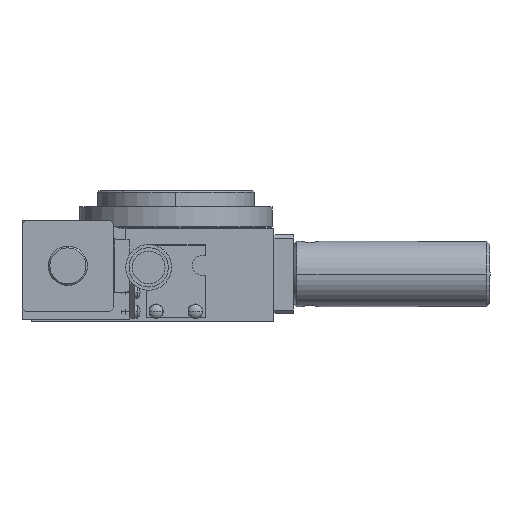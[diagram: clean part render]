
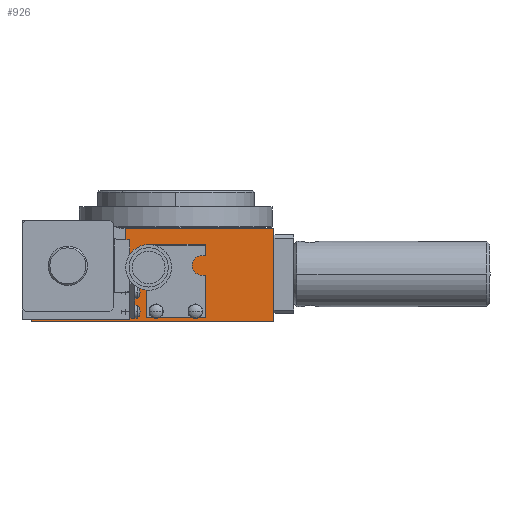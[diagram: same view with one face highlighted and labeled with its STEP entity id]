
A CAD part, left-side view. The second image highlights one B-rep face of the part: STEP entity #926.
In plain terms, the highlighted planar face has unit normal (-1, 0, 0).
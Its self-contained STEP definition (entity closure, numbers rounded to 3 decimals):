
#926=ADVANCED_FACE('',(#1739,#1740,#1741),#1742,.F.);
#1739=FACE_BOUND('',#2942,.T.);
#1740=FACE_OUTER_BOUND('',#2943,.T.);
#1741=FACE_BOUND('',#2944,.T.);
#1742=PLANE('',#2945);
#2942=EDGE_LOOP('',(#5619,#5620,#5621,#5622,#5623,#5624));
#2943=EDGE_LOOP('',(#5625,#5626,#5627,#5628));
#2944=EDGE_LOOP('',(#5629,#5630,#5631,#5632,#5633,#5634));
#2945=AXIS2_PLACEMENT_3D('',#5635,#5636,#5637);
#5619=ORIENTED_EDGE('',*,*,#8766,.F.);
#5620=ORIENTED_EDGE('',*,*,#8767,.F.);
#5621=ORIENTED_EDGE('',*,*,#8768,.F.);
#5622=ORIENTED_EDGE('',*,*,#8769,.F.);
#5623=ORIENTED_EDGE('',*,*,#8770,.F.);
#5624=ORIENTED_EDGE('',*,*,#8771,.F.);
#5625=ORIENTED_EDGE('',*,*,#8772,.T.);
#5626=ORIENTED_EDGE('',*,*,#8773,.F.);
#5627=ORIENTED_EDGE('',*,*,#8774,.F.);
#5628=ORIENTED_EDGE('',*,*,#8775,.T.);
#5629=ORIENTED_EDGE('',*,*,#8776,.F.);
#5630=ORIENTED_EDGE('',*,*,#8763,.F.);
#5631=ORIENTED_EDGE('',*,*,#8777,.F.);
#5632=ORIENTED_EDGE('',*,*,#8778,.F.);
#5633=ORIENTED_EDGE('',*,*,#8779,.F.);
#5634=ORIENTED_EDGE('',*,*,#8780,.F.);
#5635=CARTESIAN_POINT('',(-30.0,44.0,28.5));
#5636=DIRECTION('',(1.0,0.0,0.0));
#5637=DIRECTION('',(0.0,1.0,0.0));
#8763=EDGE_CURVE('',#10548,#10549,#10550,.T.);
#8766=EDGE_CURVE('',#10553,#10554,#10555,.T.);
#8767=EDGE_CURVE('',#10556,#10553,#10557,.T.);
#8768=EDGE_CURVE('',#10558,#10556,#10559,.T.);
#8769=EDGE_CURVE('',#10560,#10558,#10561,.T.);
#8770=EDGE_CURVE('',#10562,#10560,#10563,.T.);
#8771=EDGE_CURVE('',#10554,#10562,#10564,.T.);
#8772=EDGE_CURVE('',#10565,#10566,#10567,.T.);
#8773=EDGE_CURVE('',#10568,#10566,#10569,.T.);
#8774=EDGE_CURVE('',#10570,#10568,#10571,.T.);
#8775=EDGE_CURVE('',#10570,#10565,#10572,.T.);
#8776=EDGE_CURVE('',#10549,#10573,#10574,.T.);
#8777=EDGE_CURVE('',#10575,#10548,#10576,.T.);
#8778=EDGE_CURVE('',#10577,#10575,#10578,.T.);
#8779=EDGE_CURVE('',#10579,#10577,#10580,.T.);
#8780=EDGE_CURVE('',#10573,#10579,#10581,.T.);
#10548=VERTEX_POINT('',#13142);
#10549=VERTEX_POINT('',#13143);
#10550=LINE('',#13144,#13145);
#10553=VERTEX_POINT('',#13150);
#10554=VERTEX_POINT('',#13151);
#10555=LINE('',#13152,#13153);
#10556=VERTEX_POINT('',#13154);
#10557=LINE('',#13155,#13156);
#10558=VERTEX_POINT('',#13157);
#10559=LINE('',#13158,#13159);
#10560=VERTEX_POINT('',#13160);
#10561=LINE('',#13161,#13162);
#10562=VERTEX_POINT('',#13163);
#10563=LINE('',#13164,#13165);
#10564=LINE('',#13166,#13167);
#10565=VERTEX_POINT('',#13168);
#10566=VERTEX_POINT('',#13169);
#10567=LINE('',#13170,#13171);
#10568=VERTEX_POINT('',#13172);
#10569=LINE('',#13173,#13174);
#10570=VERTEX_POINT('',#13175);
#10571=LINE('',#13176,#13177);
#10572=LINE('',#13178,#13179);
#10573=VERTEX_POINT('',#13180);
#10574=LINE('',#13181,#13182);
#10575=VERTEX_POINT('',#13183);
#10576=LINE('',#13184,#13185);
#10577=VERTEX_POINT('',#13186);
#10578=LINE('',#13187,#13188);
#10579=VERTEX_POINT('',#13189);
#10580=LINE('',#13190,#13191);
#10581=LINE('',#13192,#13193);
#13142=CARTESIAN_POINT('',(-30.0,6.0,5.409));
#13143=CARTESIAN_POINT('',(-30.0,8.0,4.255));
#13144=CARTESIAN_POINT('',(-30.0,6.0,5.409));
#13145=VECTOR('',#16160,1000.0);
#13150=CARTESIAN_POINT('',(-30.0,-4.0,4.255));
#13151=CARTESIAN_POINT('',(-30.0,-4.0,1.945));
#13152=CARTESIAN_POINT('',(-30.0,-4.0,4.255));
#13153=VECTOR('',#16163,1000.0);
#13154=CARTESIAN_POINT('',(-30.0,-6.0,5.409));
#13155=CARTESIAN_POINT('',(-30.0,-6.0,5.409));
#13156=VECTOR('',#16164,1000.0);
#13157=CARTESIAN_POINT('',(-30.0,-8.0,4.255));
#13158=CARTESIAN_POINT('',(-30.0,-8.0,4.255));
#13159=VECTOR('',#16165,1000.0);
#13160=CARTESIAN_POINT('',(-30.0,-8.0,1.945));
#13161=CARTESIAN_POINT('',(-30.0,-8.0,1.945));
#13162=VECTOR('',#16166,1000.0);
#13163=CARTESIAN_POINT('',(-30.0,-6.0,0.791));
#13164=CARTESIAN_POINT('',(-30.0,-6.0,0.791));
#13165=VECTOR('',#16167,1000.0);
#13166=CARTESIAN_POINT('',(-30.0,-4.0,1.945));
#13167=VECTOR('',#16168,1000.0);
#13168=CARTESIAN_POINT('',(-30.0,44.0,0.0));
#13169=CARTESIAN_POINT('',(-30.0,-30.0,0.0));
#13170=CARTESIAN_POINT('',(-30.0,44.0,0.0));
#13171=VECTOR('',#16169,1000.0);
#13172=CARTESIAN_POINT('',(-30.0,-30.0,28.5));
#13173=CARTESIAN_POINT('',(-30.0,-30.0,28.5));
#13174=VECTOR('',#16170,1000.0);
#13175=CARTESIAN_POINT('',(-30.0,44.0,28.5));
#13176=CARTESIAN_POINT('',(-30.0,44.0,28.5));
#13177=VECTOR('',#16171,1000.0);
#13178=CARTESIAN_POINT('',(-30.0,44.0,28.5));
#13179=VECTOR('',#16172,1000.0);
#13180=CARTESIAN_POINT('',(-30.0,8.0,1.945));
#13181=CARTESIAN_POINT('',(-30.0,8.0,4.255));
#13182=VECTOR('',#16173,1000.0);
#13183=CARTESIAN_POINT('',(-30.0,4.0,4.255));
#13184=CARTESIAN_POINT('',(-30.0,4.0,4.255));
#13185=VECTOR('',#16174,1000.0);
#13186=CARTESIAN_POINT('',(-30.0,4.0,1.945));
#13187=CARTESIAN_POINT('',(-30.0,4.0,1.945));
#13188=VECTOR('',#16175,1000.0);
#13189=CARTESIAN_POINT('',(-30.0,6.0,0.791));
#13190=CARTESIAN_POINT('',(-30.0,6.0,0.791));
#13191=VECTOR('',#16176,1000.0);
#13192=CARTESIAN_POINT('',(-30.0,8.0,1.945));
#13193=VECTOR('',#16177,1000.0);
#16160=DIRECTION('',(0.0,0.866,-0.5));
#16163=DIRECTION('',(0.0,0.0,-1.0));
#16164=DIRECTION('',(0.0,0.866,-0.5));
#16165=DIRECTION('',(0.0,0.866,0.5));
#16166=DIRECTION('',(0.0,0.0,1.0));
#16167=DIRECTION('',(0.0,-0.866,0.5));
#16168=DIRECTION('',(0.0,-0.866,-0.5));
#16169=DIRECTION('',(0.0,-1.0,0.0));
#16170=DIRECTION('',(0.0,0.0,-1.0));
#16171=DIRECTION('',(0.0,-1.0,0.0));
#16172=DIRECTION('',(0.0,0.0,-1.0));
#16173=DIRECTION('',(0.0,0.0,-1.0));
#16174=DIRECTION('',(0.0,0.866,0.5));
#16175=DIRECTION('',(0.0,0.0,1.0));
#16176=DIRECTION('',(0.0,-0.866,0.5));
#16177=DIRECTION('',(0.0,-0.866,-0.5));
